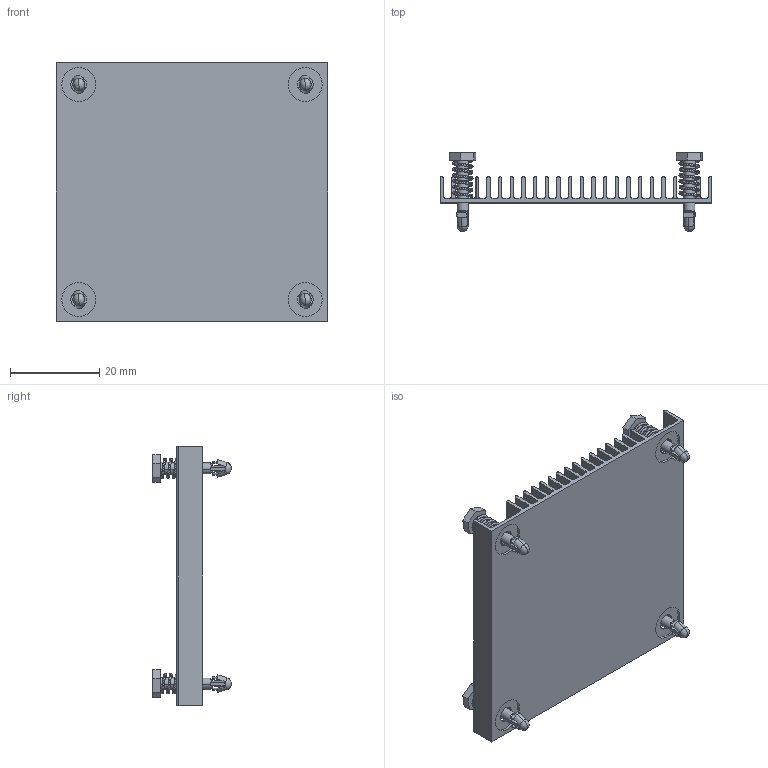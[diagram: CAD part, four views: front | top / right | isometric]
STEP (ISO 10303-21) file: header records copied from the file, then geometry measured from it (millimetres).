
FILE_DESCRIPTION (( 'STEP AP214' ), '1' );
FILE_NAME ('HS1579EBK01.STEP', '2023-03-03T18:59:01', ( '' ), ( '' ), 'SwSTEP 2.0', 'SolidWorks 2020', '' );
FILE_SCHEMA (( 'AUTOMOTIVE_DESIGN' ));
Length unit declared in the file: millimetre
Products named in the file (1): HS1579EBK01
Bounding box: 60.96 x 17.59 x 57.91 mm (x, y, z)
Volume: 8708.1 mm3; surface area: 20478.7 mm2
Topology: 5 solids, 5 shells, 412 faces, 1138 edges, 748 vertices
Faces by surface type: plane 214, cylinder 158, bspline 24, torus 8, cone 8
Entity records: 22828 total; most frequent: CARTESIAN_POINT 7947, ORIENTED_EDGE 2276, DIRECTION 2044, EDGE_CURVE 1138, VERTEX_POINT 748, AXIS2_PLACEMENT_3D 705, LINE 634, VECTOR 634
